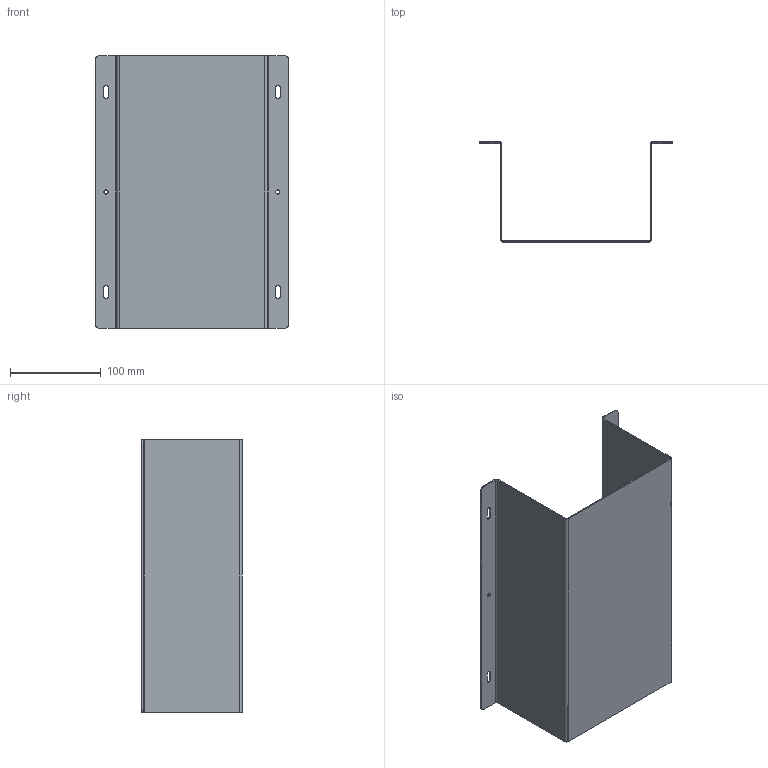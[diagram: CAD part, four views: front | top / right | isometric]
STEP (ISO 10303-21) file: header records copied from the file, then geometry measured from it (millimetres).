
FILE_DESCRIPTION(('STEP AP214'),'1');
FILE_NAME('N522-160x300.stp','2026-08-07T01:50:37',(' '),(' '),'Spatial InterOp 3D',' ',' ');
FILE_SCHEMA(('AUTOMOTIVE_DESIGN { 1 0 10303 214 1 1 1 1 }'));
Length unit declared in the file: metre
Products named in the file (2): N522-160x300; CableTray160
Assembly tree (1 placements, depth 2):
  N522-160x300
    CableTray160
Bounding box: 213 x 110 x 300 mm (x, y, z)
Volume: 153351 mm3; surface area: 257522.1 mm2
Topology: 1 solids, 1 shells, 44 faces, 126 edges, 84 vertices
Faces by surface type: cylinder 22, plane 22
Full cylindrical faces by diameter (mm): 4.5 x2
Entity records: 2273 total; most frequent: DIRECTION 260, CARTESIAN_POINT 254, ORIENTED_EDGE 248, STYLED_ITEM 126, PRESENTATION_STYLE_ASSIGNMENT 126, COLOUR_RGB 126, EDGE_CURVE 124, AXIS2_PLACEMENT_3D 90
